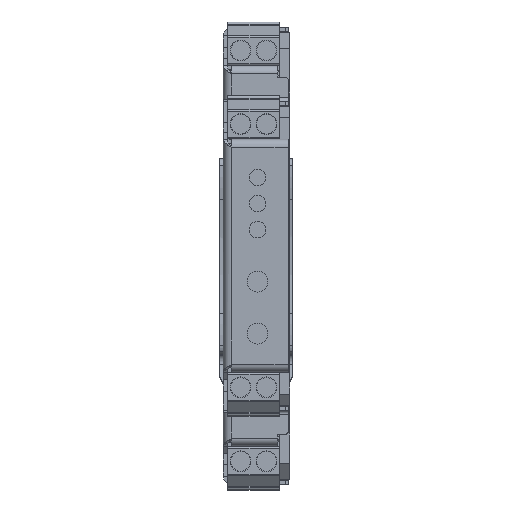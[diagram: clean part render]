
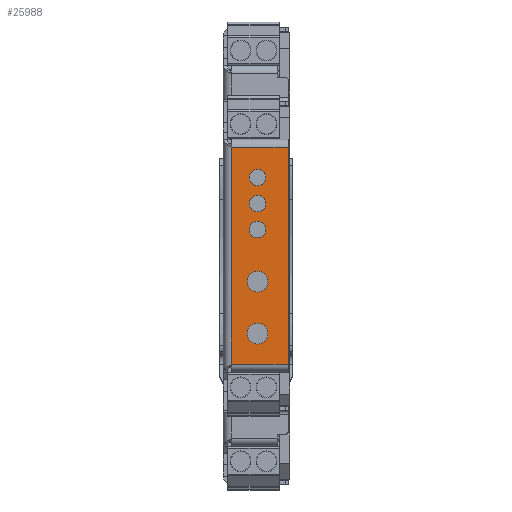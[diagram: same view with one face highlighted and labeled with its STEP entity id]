
A CAD part, top view. The second image highlights one B-rep face of the part: STEP entity #25988.
In plain terms, the highlighted planar face has unit normal (0, 0, 1).
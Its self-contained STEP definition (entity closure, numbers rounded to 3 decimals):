
#6 = DIRECTION ( 'NONE',  ( 0., 0., 1. ) ) ;
#214 = EDGE_CURVE ( 'NONE', #29326, #34489, #6420, .T. ) ;
#579 = CARTESIAN_POINT ( 'NONE',  ( 7.3, 60., 60.65 ) ) ;
#993 = AXIS2_PLACEMENT_3D ( 'NONE', #2051, #7485, #1691 ) ;
#1691 = DIRECTION ( 'NONE',  ( 1., 0., 0. ) ) ;
#1710 = VERTEX_POINT ( 'NONE', #18647 ) ;
#1810 = CARTESIAN_POINT ( 'NONE',  ( 8.309, 58.758, 60.65 ) ) ;
#1974 = DIRECTION ( 'NONE',  ( 1., 0., 0. ) ) ;
#2020 = CARTESIAN_POINT ( 'NONE',  ( 9.3, 30., 60.65 ) ) ;
#2051 = CARTESIAN_POINT ( 'NONE',  ( 7.3, 55., 60.65 ) ) ;
#2375 = CARTESIAN_POINT ( 'NONE',  ( 13.2, 24.137, 60.65 ) ) ;
#3379 = PLANE ( 'NONE',  #31046 ) ;
#3855 = VECTOR ( 'NONE', #11049, 1000. ) ;
#3910 = FACE_BOUND ( 'NONE', #6110, .T. ) ;
#4245 = CARTESIAN_POINT ( 'NONE',  ( 6.7, 53.517, 60.65 ) ) ;
#4665 = AXIS2_PLACEMENT_3D ( 'NONE', #36399, #10886, #9186 ) ;
#5011 = LINE ( 'NONE', #28023, #3855 ) ;
#5161 = EDGE_CURVE ( 'NONE', #28105, #11606, #15992, .T. ) ;
#5505 = CIRCLE ( 'NONE', #33532, 2. ) ;
#5625 = FACE_BOUND ( 'NONE', #34685, .T. ) ;
#5770 = CARTESIAN_POINT ( 'NONE',  ( 7.3, 40., 60.65 ) ) ;
#5822 = AXIS2_PLACEMENT_3D ( 'NONE', #10248, #15697, #21611 ) ;
#5950 = DIRECTION ( 'NONE',  ( 1., 0., 0. ) ) ;
#6110 = EDGE_LOOP ( 'NONE', ( #29075, #36626 ) ) ;
#6359 = VERTEX_POINT ( 'NONE', #29475 ) ;
#6420 = LINE ( 'NONE', #31666, #20502 ) ;
#6434 = EDGE_CURVE ( 'NONE', #6359, #12786, #26134, .T. ) ;
#6841 = ORIENTED_EDGE ( 'NONE', *, *, #6434, .F. ) ;
#6919 = FACE_BOUND ( 'NONE', #19844, .T. ) ;
#7066 = AXIS2_PLACEMENT_3D ( 'NONE', #17951, #35629, #21082 ) ;
#7126 = CARTESIAN_POINT ( 'NONE',  ( 7.3, 60., 60.65 ) ) ;
#7199 = DIRECTION ( 'NONE',  ( 1., 0., 0. ) ) ;
#7336 = EDGE_CURVE ( 'NONE', #29326, #30603, #5011, .T. ) ;
#7413 = VERTEX_POINT ( 'NONE', #8797 ) ;
#7485 = DIRECTION ( 'NONE',  ( 0., 0., 1. ) ) ;
#7680 = CIRCLE ( 'NONE', #7066, 2. ) ;
#8548 = AXIS2_PLACEMENT_3D ( 'NONE', #7126, #29914, #27500 ) ;
#8797 = CARTESIAN_POINT ( 'NONE',  ( 2.237, 24.137, 60.65 ) ) ;
#8828 = AXIS2_PLACEMENT_3D ( 'NONE', #579, #18378, #32533 ) ;
#9040 = ORIENTED_EDGE ( 'NONE', *, *, #24236, .F. ) ;
#9121 = EDGE_CURVE ( 'NONE', #17911, #1710, #5505, .T. ) ;
#9186 = DIRECTION ( 'NONE',  ( 1., 0., 0. ) ) ;
#9338 = AXIS2_PLACEMENT_3D ( 'NONE', #21034, #9484, #7199 ) ;
#9484 = DIRECTION ( 'NONE',  ( 0., 0., 1. ) ) ;
#9495 = VERTEX_POINT ( 'NONE', #32833 ) ;
#10248 = CARTESIAN_POINT ( 'NONE',  ( 7.3, 50., 60.65 ) ) ;
#10886 = DIRECTION ( 'NONE',  ( 0., 0., 1. ) ) ;
#11049 = DIRECTION ( 'NONE',  ( 0., -1., 0. ) ) ;
#11260 = DIRECTION ( 'NONE',  ( 0., 0., 1. ) ) ;
#11457 = CARTESIAN_POINT ( 'NONE',  ( 2.237, 65.863, 60.65 ) ) ;
#11606 = VERTEX_POINT ( 'NONE', #1810 ) ;
#11746 = EDGE_CURVE ( 'NONE', #12786, #6359, #15704, .T. ) ;
#12786 = VERTEX_POINT ( 'NONE', #33393 ) ;
#13087 = CARTESIAN_POINT ( 'NONE',  ( 2.237, 24.137, 60.65 ) ) ;
#13688 = AXIS2_PLACEMENT_3D ( 'NONE', #5770, #11260, #5950 ) ;
#13750 = VECTOR ( 'NONE', #1974, 1000. ) ;
#13934 = DIRECTION ( 'NONE',  ( 1., 0., 0. ) ) ;
#14225 = CIRCLE ( 'NONE', #993, 1.6 ) ;
#14234 = DIRECTION ( 'NONE',  ( 0., 0., 1. ) ) ;
#15184 = ORIENTED_EDGE ( 'NONE', *, *, #20973, .F. ) ;
#15563 = ORIENTED_EDGE ( 'NONE', *, *, #9121, .F. ) ;
#15697 = DIRECTION ( 'NONE',  ( 0., 0., 1. ) ) ;
#15704 = CIRCLE ( 'NONE', #29973, 1.6 ) ;
#15992 = CIRCLE ( 'NONE', #8828, 1.6 ) ;
#16078 = LINE ( 'NONE', #13087, #13750 ) ;
#16646 = DIRECTION ( 'NONE',  ( 1., 0., 0. ) ) ;
#17071 = FACE_BOUND ( 'NONE', #34312, .T. ) ;
#17817 = CARTESIAN_POINT ( 'NONE',  ( 1.5, 22.6, 60.65 ) ) ;
#17848 = CARTESIAN_POINT ( 'NONE',  ( 2.237, 22.6, 60.65 ) ) ;
#17911 = VERTEX_POINT ( 'NONE', #2020 ) ;
#17951 = CARTESIAN_POINT ( 'NONE',  ( 7.3, 30., 60.65 ) ) ;
#18378 = DIRECTION ( 'NONE',  ( 0., 0., 1. ) ) ;
#18647 = CARTESIAN_POINT ( 'NONE',  ( 5.3, 30., 60.65 ) ) ;
#18784 = EDGE_LOOP ( 'NONE', ( #9040, #35151 ) ) ;
#19300 = EDGE_CURVE ( 'NONE', #29146, #9495, #25404, .T. ) ;
#19844 = EDGE_LOOP ( 'NONE', ( #15563, #15184 ) ) ;
#20217 = CARTESIAN_POINT ( 'NONE',  ( 7.3, 30., 60.65 ) ) ;
#20285 = ORIENTED_EDGE ( 'NONE', *, *, #34340, .F. ) ;
#20502 = VECTOR ( 'NONE', #28868, 1000. ) ;
#20518 = VECTOR ( 'NONE', #31641, 1000. ) ;
#20929 = EDGE_CURVE ( 'NONE', #34896, #35683, #35670, .T. ) ;
#20973 = EDGE_CURVE ( 'NONE', #1710, #17911, #7680, .T. ) ;
#21034 = CARTESIAN_POINT ( 'NONE',  ( 7.3, 55., 60.65 ) ) ;
#21082 = DIRECTION ( 'NONE',  ( 1., 0., 0. ) ) ;
#21474 = ORIENTED_EDGE ( 'NONE', *, *, #19300, .F. ) ;
#21611 = DIRECTION ( 'NONE',  ( 1., 0., 0. ) ) ;
#23708 = FACE_OUTER_BOUND ( 'NONE', #29519, .T. ) ;
#24236 = EDGE_CURVE ( 'NONE', #11606, #28105, #34159, .T. ) ;
#25126 = CARTESIAN_POINT ( 'NONE',  ( 9.3, 40., 60.65 ) ) ;
#25404 = CIRCLE ( 'NONE', #9338, 1.6 ) ;
#25500 = EDGE_CURVE ( 'NONE', #7413, #30603, #16078, .T. ) ;
#25988 = ADVANCED_FACE ( 'NONE', ( #5625, #17071, #31970, #3910, #6919, #23708 ), #3379, .T. ) ;
#26134 = CIRCLE ( 'NONE', #5822, 1.6 ) ;
#26178 = DIRECTION ( 'NONE',  ( 1., 0., 0. ) ) ;
#27106 = ORIENTED_EDGE ( 'NONE', *, *, #11746, .F. ) ;
#27500 = DIRECTION ( 'NONE',  ( 1., 0., 0. ) ) ;
#28023 = CARTESIAN_POINT ( 'NONE',  ( 13.2, 22.6, 60.65 ) ) ;
#28105 = VERTEX_POINT ( 'NONE', #36883 ) ;
#28868 = DIRECTION ( 'NONE',  ( -1., 0., 0. ) ) ;
#29075 = ORIENTED_EDGE ( 'NONE', *, *, #20929, .F. ) ;
#29146 = VERTEX_POINT ( 'NONE', #4245 ) ;
#29326 = VERTEX_POINT ( 'NONE', #35870 ) ;
#29475 = CARTESIAN_POINT ( 'NONE',  ( 8.591, 49.055, 60.65 ) ) ;
#29519 = EDGE_LOOP ( 'NONE', ( #31700, #34141, #32245, #30988 ) ) ;
#29523 = DIRECTION ( 'NONE',  ( 0., 0., 1. ) ) ;
#29914 = DIRECTION ( 'NONE',  ( 0., 0., 1. ) ) ;
#29973 = AXIS2_PLACEMENT_3D ( 'NONE', #31155, #14234, #16646 ) ;
#30390 = CARTESIAN_POINT ( 'NONE',  ( 5.3, 40., 60.65 ) ) ;
#30603 = VERTEX_POINT ( 'NONE', #2375 ) ;
#30988 = ORIENTED_EDGE ( 'NONE', *, *, #214, .T. ) ;
#31046 = AXIS2_PLACEMENT_3D ( 'NONE', #17817, #29523, #26178 ) ;
#31155 = CARTESIAN_POINT ( 'NONE',  ( 7.3, 50., 60.65 ) ) ;
#31641 = DIRECTION ( 'NONE',  ( 0., -1., 0. ) ) ;
#31666 = CARTESIAN_POINT ( 'NONE',  ( 13.2, 65.863, 60.65 ) ) ;
#31700 = ORIENTED_EDGE ( 'NONE', *, *, #31770, .T. ) ;
#31770 = EDGE_CURVE ( 'NONE', #34489, #7413, #32189, .T. ) ;
#31970 = FACE_BOUND ( 'NONE', #18784, .T. ) ;
#32189 = LINE ( 'NONE', #17848, #20518 ) ;
#32245 = ORIENTED_EDGE ( 'NONE', *, *, #7336, .F. ) ;
#32533 = DIRECTION ( 'NONE',  ( 1., 0., 0. ) ) ;
#32833 = CARTESIAN_POINT ( 'NONE',  ( 7.9, 56.483, 60.65 ) ) ;
#33393 = CARTESIAN_POINT ( 'NONE',  ( 6.009, 50.945, 60.65 ) ) ;
#33532 = AXIS2_PLACEMENT_3D ( 'NONE', #20217, #6, #13934 ) ;
#33903 = CIRCLE ( 'NONE', #4665, 2. ) ;
#34141 = ORIENTED_EDGE ( 'NONE', *, *, #25500, .T. ) ;
#34159 = CIRCLE ( 'NONE', #8548, 1.6 ) ;
#34312 = EDGE_LOOP ( 'NONE', ( #21474, #20285 ) ) ;
#34340 = EDGE_CURVE ( 'NONE', #9495, #29146, #14225, .T. ) ;
#34489 = VERTEX_POINT ( 'NONE', #11457 ) ;
#34503 = EDGE_CURVE ( 'NONE', #35683, #34896, #33903, .T. ) ;
#34685 = EDGE_LOOP ( 'NONE', ( #6841, #27106 ) ) ;
#34896 = VERTEX_POINT ( 'NONE', #25126 ) ;
#35151 = ORIENTED_EDGE ( 'NONE', *, *, #5161, .F. ) ;
#35629 = DIRECTION ( 'NONE',  ( 0., 0., 1. ) ) ;
#35670 = CIRCLE ( 'NONE', #13688, 2. ) ;
#35683 = VERTEX_POINT ( 'NONE', #30390 ) ;
#35870 = CARTESIAN_POINT ( 'NONE',  ( 13.2, 65.863, 60.65 ) ) ;
#36399 = CARTESIAN_POINT ( 'NONE',  ( 7.3, 40., 60.65 ) ) ;
#36626 = ORIENTED_EDGE ( 'NONE', *, *, #34503, .F. ) ;
#36883 = CARTESIAN_POINT ( 'NONE',  ( 6.291, 61.242, 60.65 ) ) ;
